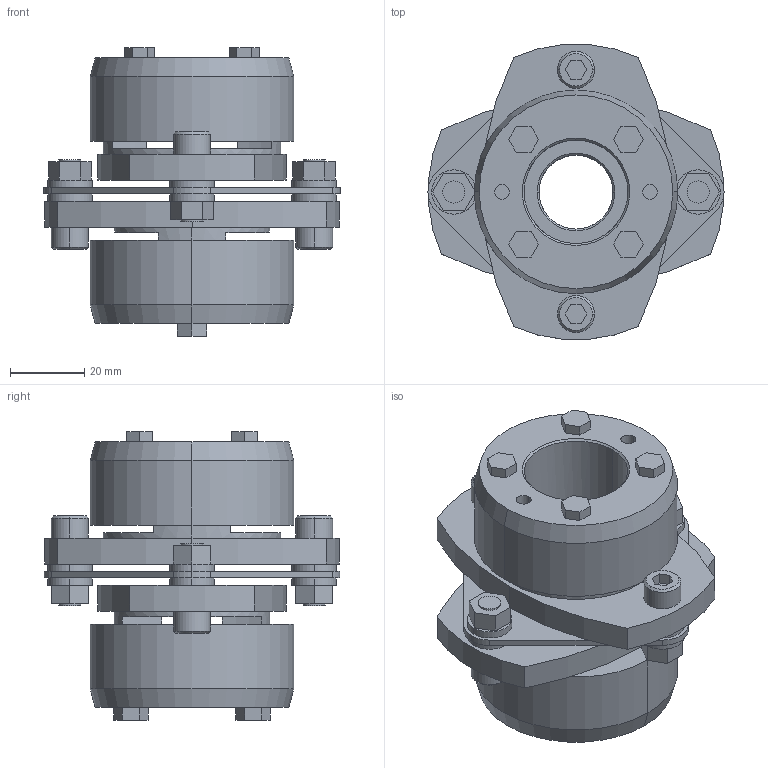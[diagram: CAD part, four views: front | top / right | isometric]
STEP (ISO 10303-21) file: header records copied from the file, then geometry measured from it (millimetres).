
FILE_DESCRIPTION((''),'2;1');
FILE_NAME('LCS-80T7-20×28.stp','2011-09-12T15:25:19',(''),(''),'AutoCAD STEP 2000i','AutoCAD 2000i',', , ');
FILE_SCHEMA(('CONFIG_CONTROL_DESIGN'));
Length unit declared in the file: millimetre
Products named in the file (10): LCS-80T7-19×28; 忣兜1; LC80T7-T028; LC80T7-T024; LC80T7-T022; LC80T7-T019-1; LC80T7-T019; LC80T7-T017-1; LC80T7-T017; LCS80-ITA
Assembly tree (9 placements, depth 2):
  LCS-80T7-19×28
    忣兜1
    LC80T7-T028
    LC80T7-T024
    LC80T7-T022
    LC80T7-T019-1
    LC80T7-T019
    LC80T7-T017-1
    LC80T7-T017
    LCS80-ITA
Bounding box: 80 x 79.95 x 78.05 mm (x, y, z)
Volume: 141832.7 mm3; surface area: 42034 mm2
Topology: 1 solids, 1 shells, 232 faces, 568 edges, 372 vertices
Faces by surface type: plane 132, cylinder 80, cone 20
Entity records: 7105 total; most frequent: DIRECTION 1248, CARTESIAN_POINT 1182, ORIENTED_EDGE 1136, EDGE_CURVE 568, AXIS2_PLACEMENT_3D 438, VERTEX_POINT 372, VECTOR 372, LINE 372
